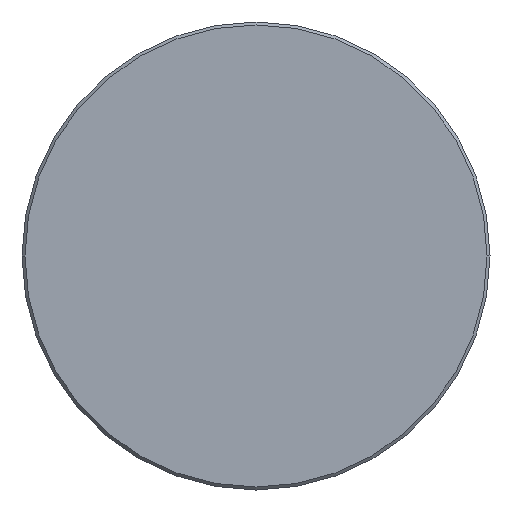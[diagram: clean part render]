
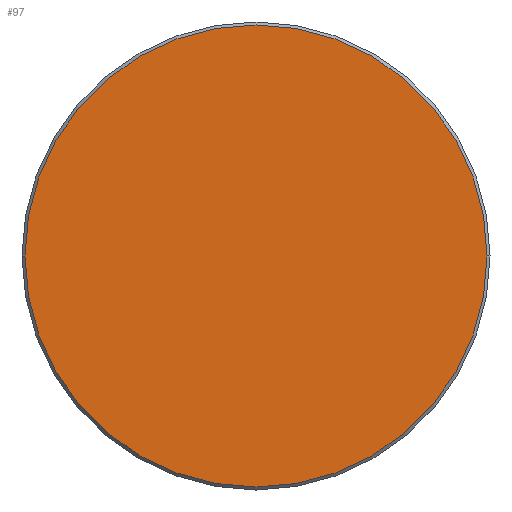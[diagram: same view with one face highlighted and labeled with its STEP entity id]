
A CAD part, left-side view. The second image highlights one B-rep face of the part: STEP entity #97.
In plain terms, the highlighted planar face has unit normal (-1, 0, 0).
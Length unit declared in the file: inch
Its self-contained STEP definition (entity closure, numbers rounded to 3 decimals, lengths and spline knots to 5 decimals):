
#2 = AXIS2_PLACEMENT_3D ( 'NONE', #293, #77, #21 ) ;
#14 = AXIS2_PLACEMENT_3D ( 'NONE', #105, #233, #365 ) ;
#21 = DIRECTION ( 'NONE',  ( 0., -1., 0. ) ) ;
#48 = CARTESIAN_POINT ( 'NONE',  ( 0., 0.3085, 0. ) ) ;
#72 = CARTESIAN_POINT ( 'NONE',  ( 0., -0.3085, 0. ) ) ;
#77 = DIRECTION ( 'NONE',  ( -1., 0., 0. ) ) ;
#92 = VERTEX_POINT ( 'NONE', #48 ) ;
#97 = ADVANCED_FACE ( 'NONE', ( #113 ), #198, .T. ) ;
#104 = EDGE_CURVE ( 'NONE', #92, #111, #150, .T. ) ;
#105 = CARTESIAN_POINT ( 'NONE',  ( 0., 0., 0. ) ) ;
#111 = VERTEX_POINT ( 'NONE', #72 ) ;
#113 = FACE_OUTER_BOUND ( 'NONE', #185, .T. ) ;
#127 = CIRCLE ( 'NONE', #2, 0.3085 ) ;
#138 = DIRECTION ( 'NONE',  ( -1., 0., 0. ) ) ;
#150 = CIRCLE ( 'NONE', #14, 0.3085 ) ;
#153 = AXIS2_PLACEMENT_3D ( 'NONE', #335, #138, #364 ) ;
#185 = EDGE_LOOP ( 'NONE', ( #258, #298 ) ) ;
#198 = PLANE ( 'NONE',  #153 ) ;
#199 = EDGE_CURVE ( 'NONE', #111, #92, #127, .T. ) ;
#233 = DIRECTION ( 'NONE',  ( -1., 0., 0. ) ) ;
#258 = ORIENTED_EDGE ( 'NONE', *, *, #104, .T. ) ;
#293 = CARTESIAN_POINT ( 'NONE',  ( 0., 0., 0. ) ) ;
#298 = ORIENTED_EDGE ( 'NONE', *, *, #199, .T. ) ;
#335 = CARTESIAN_POINT ( 'NONE',  ( 0., 0., 0. ) ) ;
#364 = DIRECTION ( 'NONE',  ( 0., -1., 0. ) ) ;
#365 = DIRECTION ( 'NONE',  ( 0., -1., 0. ) ) ;
